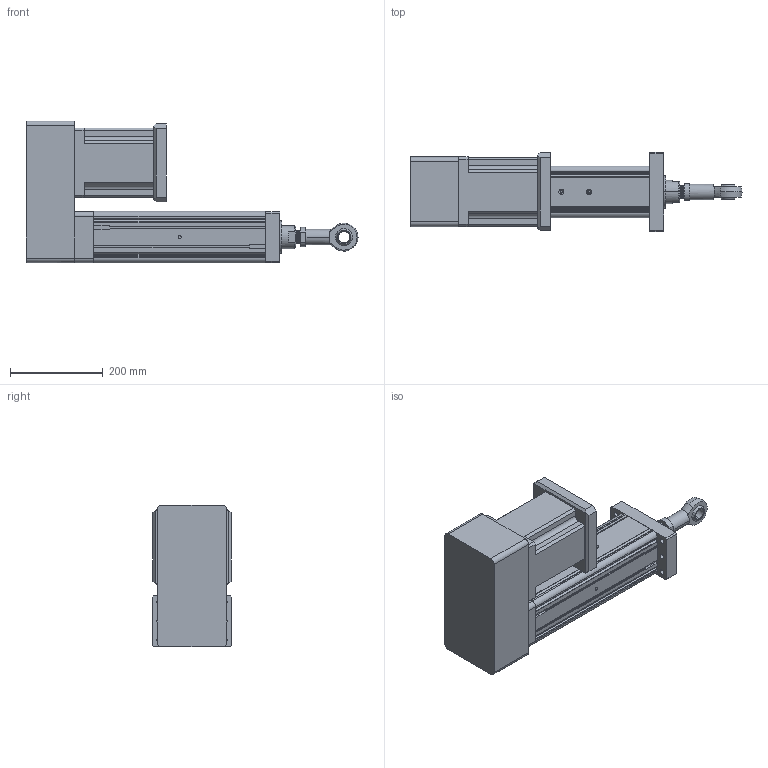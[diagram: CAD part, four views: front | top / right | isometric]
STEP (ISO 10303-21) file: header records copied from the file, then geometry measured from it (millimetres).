
FILE_DESCRIPTION (( 'STEP AP203' ), '1' );
FILE_NAME ('YRJ110-L200-H3K3.STEP', '2020-01-04T06:24:15', ( 'User' ), ( 'China' ), 'SwSTEP 2.0', 'SolidWorks 2016', '' );
FILE_SCHEMA (( 'CONFIG_CONTROL_DESIGN' ));
Length unit declared in the file: millimetre
Products named in the file (11): _BNC01-SI25T_K-R-002; BNC01-SI25T_K-R; K3-110; H3-110-1; 095-100俴最倰第; H3-110-2; 萇儂碟-110; YRJ110-L200-H3K3; 142熬厒儂; K1-110; _BNC01-SI25T_K-R-001
Assembly tree (10 placements, depth 4):
  YRJ110-L200-H3K3
    095-100俴最倰第
    萇儂碟-110
    142熬厒儂
    K3-110
      K1-110
      BNC01-SI25T_K-R
        _BNC01-SI25T_K-R-001
        _BNC01-SI25T_K-R-002
    H3-110-1
    H3-110-2
Bounding box: 715 x 170 x 305.5 mm (x, y, z)
Volume: 11613719.1 mm3; surface area: 860582.6 mm2
Topology: 8 solids, 8 shells, 396 faces, 1101 edges, 709 vertices
Faces by surface type: plane 178, cylinder 170, cone 34, bspline 14
Entity records: 22819 total; most frequent: CARTESIAN_POINT 11710, ORIENTED_EDGE 2146, DIRECTION 1998, EDGE_CURVE 1073, VERTEX_POINT 709, AXIS2_PLACEMENT_3D 677, LINE 644, VECTOR 644
